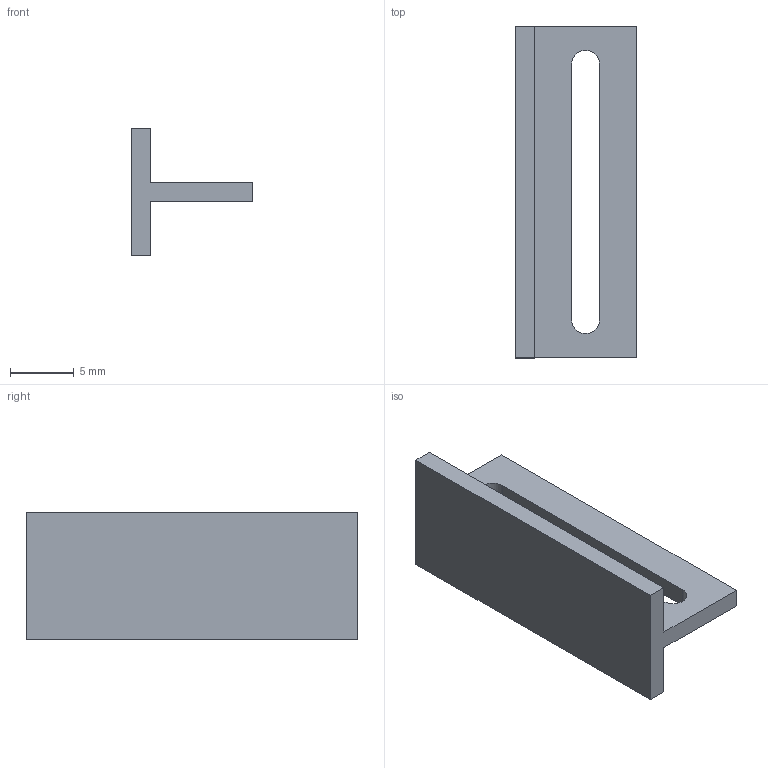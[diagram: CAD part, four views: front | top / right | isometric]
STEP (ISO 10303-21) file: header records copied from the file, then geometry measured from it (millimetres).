
FILE_DESCRIPTION(('CATIA V5 STEP Exchange'),'2;1');
FILE_NAME('C:\Users\Administrator\Desktop\控制阀采购件-0402\座椅2.0控制阀机加工件STP数模\LS42.53_S1 T型连接片.stp','2020-04-02T02:43:10+00:00',('none'),('none'),'CATIA Version 5 Release 21 GA (IN-10)','CATIA V5 STEP AP203','none');
FILE_SCHEMA(('CONFIG_CONTROL_DESIGN'));
Length unit declared in the file: millimetre
Products named in the file (1): 连接板
Bounding box: 9.5 x 26 x 10 mm (x, y, z)
Volume: 630.3 mm3; surface area: 1042.8 mm2
Topology: 1 solids, 1 shells, 14 faces, 36 edges, 24 vertices
Faces by surface type: plane 12, cylinder 2
Entity records: 461 total; most frequent: CARTESIAN_POINT 74, ORIENTED_EDGE 72, DIRECTION 62, EDGE_CURVE 36, VECTOR 32, LINE 32, VERTEX_POINT 24, AXIS2_PLACEMENT_3D 18
